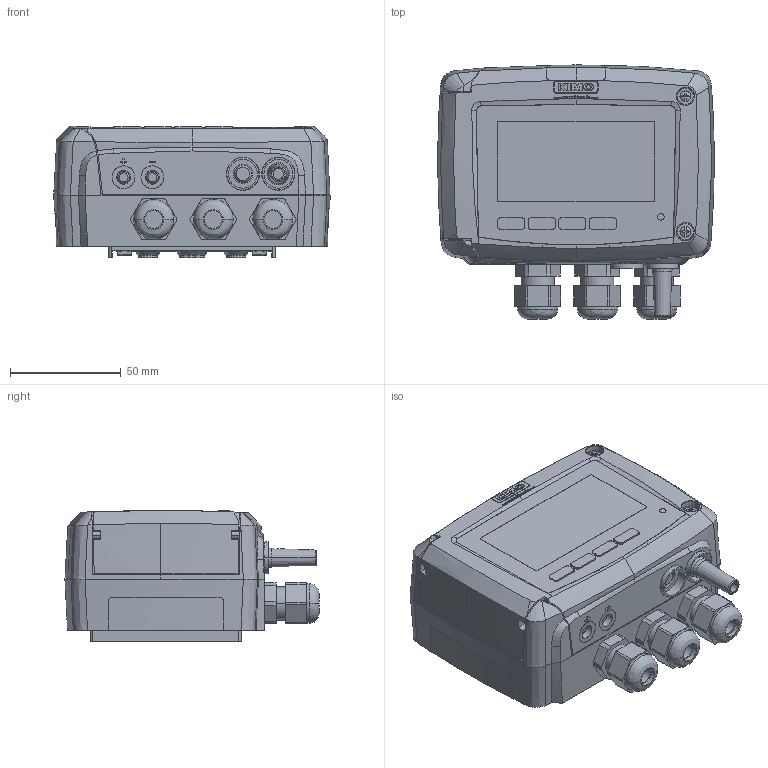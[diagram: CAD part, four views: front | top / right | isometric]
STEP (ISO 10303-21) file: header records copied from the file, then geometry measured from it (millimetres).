
FILE_DESCRIPTION (( 'STEP AP214' ), '1' );
FILE_NAME ('th210.STEP', '2023-03-29T13:47:02', ( '' ), ( '' ), 'SwSTEP 2.0', 'SolidWorks 2021', '' );
FILE_SCHEMA (( 'AUTOMOTIVE_DESIGN' ));
Length unit declared in the file: millimetre
Products named in the file (1): th210
Bounding box: 124.87 x 114.8 x 59.18 mm (x, y, z)
Volume: 564835 mm3; surface area: 75351.5 mm2
Topology: 2 solids, 3 shells, 2048 faces, 5376 edges, 3480 vertices
Faces by surface type: plane 1082, bspline 506, cylinder 334, cone 84, sphere 24, torus 18
Entity records: 96883 total; most frequent: CARTESIAN_POINT 27451, ORIENTED_EDGE 10736, DIRECTION 7883, EDGE_CURVE 5368, VERTEX_POINT 3480, LINE 3189, VECTOR 3189, AXIS2_PLACEMENT_3D 2347
